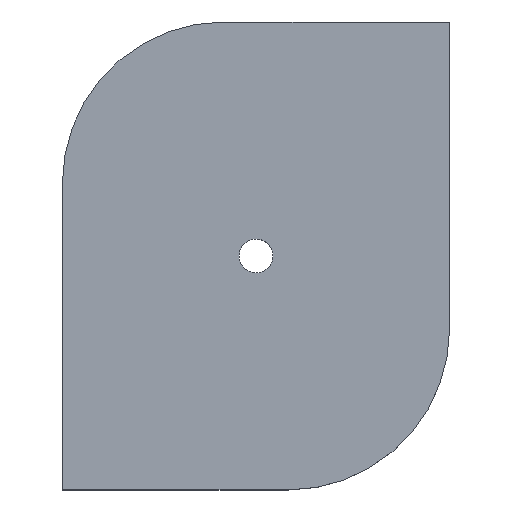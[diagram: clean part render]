
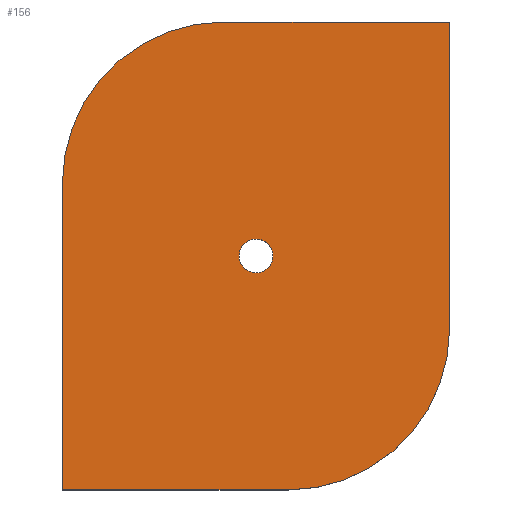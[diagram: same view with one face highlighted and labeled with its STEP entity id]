
A CAD part, top view. The second image highlights one B-rep face of the part: STEP entity #156.
In plain terms, the highlighted planar face has unit normal (0, 0, 1).
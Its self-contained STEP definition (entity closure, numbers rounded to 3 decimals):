
#63=CARTESIAN_POINT('Vertex',(44.325,60.008,11.)) ;
#77=CARTESIAN_POINT('Vertex',(51.675,55.992,11.)) ;
#80=CARTESIAN_POINT('Axis2P3D Location',(48.,58.,11.)) ;
#92=CARTESIAN_POINT('Axis2P3D Location',(0.,0.,11.)) ;
#97=CARTESIAN_POINT('Line Origine',(0.,38.,11.)) ;
#101=CARTESIAN_POINT('Vertex',(0.,76.,11.)) ;
#103=CARTESIAN_POINT('Vertex',(0.,0.,11.)) ;
#106=CARTESIAN_POINT('Line Origine',(28.,0.,11.)) ;
#110=CARTESIAN_POINT('Vertex',(56.,0.,11.)) ;
#113=CARTESIAN_POINT('Axis2P3D Location',(56.,40.,11.)) ;
#117=CARTESIAN_POINT('Vertex',(96.,40.,11.)) ;
#120=CARTESIAN_POINT('Line Origine',(96.,78.,11.)) ;
#124=CARTESIAN_POINT('Vertex',(96.,116.,11.)) ;
#127=CARTESIAN_POINT('Line Origine',(68.,116.,11.)) ;
#131=CARTESIAN_POINT('Vertex',(40.,116.,11.)) ;
#134=CARTESIAN_POINT('Axis2P3D Location',(40.,76.,11.)) ;
#147=CARTESIAN_POINT('Axis2P3D Location',(48.,58.,11.)) ;
#81=DIRECTION('Axis2P3D Direction',(0.,-0.,-1.)) ;
#93=DIRECTION('Axis2P3D Direction',(0.,0.,1.)) ;
#94=DIRECTION('Axis2P3D XDirection',(1.,0.,0.)) ;
#98=DIRECTION('Vector Direction',(0.,-1.,0.)) ;
#107=DIRECTION('Vector Direction',(1.,0.,0.)) ;
#114=DIRECTION('Axis2P3D Direction',(0.,0.,1.)) ;
#121=DIRECTION('Vector Direction',(0.,1.,0.)) ;
#128=DIRECTION('Vector Direction',(-1.,0.,0.)) ;
#135=DIRECTION('Axis2P3D Direction',(0.,0.,1.)) ;
#148=DIRECTION('Axis2P3D Direction',(0.,0.,1.)) ;
#82=AXIS2_PLACEMENT_3D('Circle Axis2P3D',#80,#81,$) ;
#95=AXIS2_PLACEMENT_3D('Plane Axis2P3D',#92,#93,#94) ;
#115=AXIS2_PLACEMENT_3D('Circle Axis2P3D',#113,#114,$) ;
#136=AXIS2_PLACEMENT_3D('Circle Axis2P3D',#134,#135,$) ;
#149=AXIS2_PLACEMENT_3D('Circle Axis2P3D',#147,#148,$) ;
#140=ORIENTED_EDGE('',*,*,#105,.T.) ;
#141=ORIENTED_EDGE('',*,*,#112,.T.) ;
#142=ORIENTED_EDGE('',*,*,#119,.F.) ;
#143=ORIENTED_EDGE('',*,*,#126,.T.) ;
#144=ORIENTED_EDGE('',*,*,#133,.T.) ;
#145=ORIENTED_EDGE('',*,*,#138,.F.) ;
#153=ORIENTED_EDGE('',*,*,#151,.F.) ;
#154=ORIENTED_EDGE('',*,*,#84,.F.) ;
#155=FACE_BOUND('',#152,.T.) ;
#99=VECTOR('Line Direction',#98,1.) ;
#108=VECTOR('Line Direction',#107,1.) ;
#122=VECTOR('Line Direction',#121,1.) ;
#129=VECTOR('Line Direction',#128,1.) ;
#156=ADVANCED_FACE('PartBody',(#146,#155),#96,.T.) ;
#83=CIRCLE('generated circle',#82,4.188) ;
#116=CIRCLE('generated circle',#115,40.) ;
#137=CIRCLE('generated circle',#136,40.) ;
#150=CIRCLE('generated circle',#149,4.188) ;
#84=EDGE_CURVE('',#78,#64,#83,.F.) ;
#105=EDGE_CURVE('',#102,#104,#100,.T.) ;
#112=EDGE_CURVE('',#104,#111,#109,.T.) ;
#119=EDGE_CURVE('',#118,#111,#116,.F.) ;
#126=EDGE_CURVE('',#118,#125,#123,.T.) ;
#133=EDGE_CURVE('',#125,#132,#130,.T.) ;
#138=EDGE_CURVE('',#102,#132,#137,.F.) ;
#151=EDGE_CURVE('',#64,#78,#150,.T.) ;
#139=EDGE_LOOP('',(#140,#141,#142,#143,#144,#145)) ;
#152=EDGE_LOOP('',(#153,#154)) ;
#146=FACE_OUTER_BOUND('',#139,.T.) ;
#100=LINE('Line',#97,#99) ;
#109=LINE('Line',#106,#108) ;
#123=LINE('Line',#120,#122) ;
#130=LINE('Line',#127,#129) ;
#96=PLANE('',#95) ;
#64=VERTEX_POINT('',#63) ;
#78=VERTEX_POINT('',#77) ;
#102=VERTEX_POINT('',#101) ;
#104=VERTEX_POINT('',#103) ;
#111=VERTEX_POINT('',#110) ;
#118=VERTEX_POINT('',#117) ;
#125=VERTEX_POINT('',#124) ;
#132=VERTEX_POINT('',#131) ;
